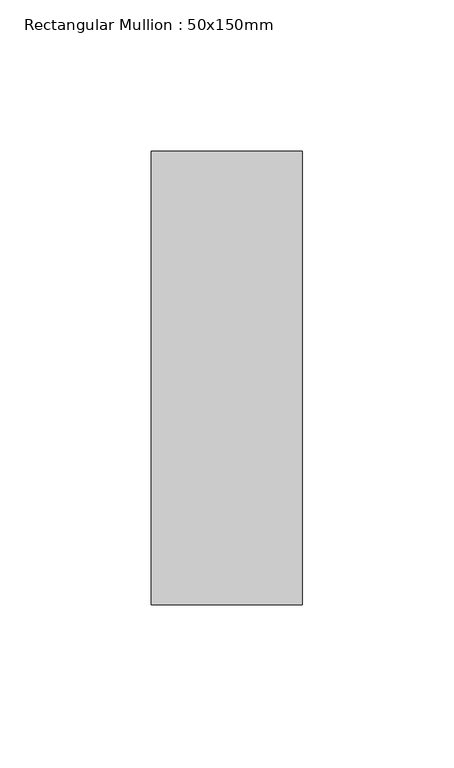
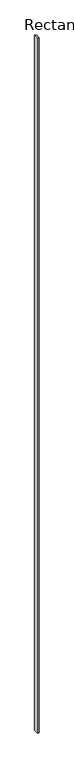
"""IFC4 building model written with IfcOpenShell, lengths in millimetres: member geometry, Rectangular Mullion : 50x150mm."""

from ifc_helpers import new_model, si_unit, frame, origin, place, context, project, spatial, polyline, outline, extrude, source, transform, mapped, element, save


def rectangular_mullion_50x150mm_6b8186ba(model_context):
    return source(origin(), model_context, "Body", "SweptSolid", [
        extrude(outline(polyline([(0.0, 75.0), (0.0, -75.0), (-50.0, -75.0), (-50.0, 75.0), (0.0, 75.0)])), frame((0.0, 0.0, -22467.4691077), z_axis=(0.0, 0.0, 1.0), x_axis=(1.0, 0.0, 0.0)), (0.0, 0.0, 1.0), 22467.4691077),
    ])


if __name__ == "__main__":
    model = new_model("IFC4")
    model_context = context("Model", 3, world=origin())
    ifc_project = project(units=[si_unit("LENGTHUNIT", "METRE", prefix="MILLI")], contexts=[model_context])
    site = spatial("IfcSite", under=ifc_project)
    building = spatial("IfcBuilding", under=site)
    placement = place(None, origin())
    rectangular_mullion_50x150mm_shape = rectangular_mullion_50x150mm_6b8186ba(model_context)
    element("IfcMember", 1, ObjectType="Rectangular Mullion : 50x150mm", at=placement, inside=building, context=model_context, shape_type="MappedRepresentation", body=[
        mapped(rectangular_mullion_50x150mm_shape, transform((0.0, 0.0, 0.0), x_axis=(1.0, 0.0, 0.0), y_axis=(0.0, 1.0, 0.0), z_axis=(0.0, 0.0, 1.0))),
    ])
    save(model, "model.ifc")
